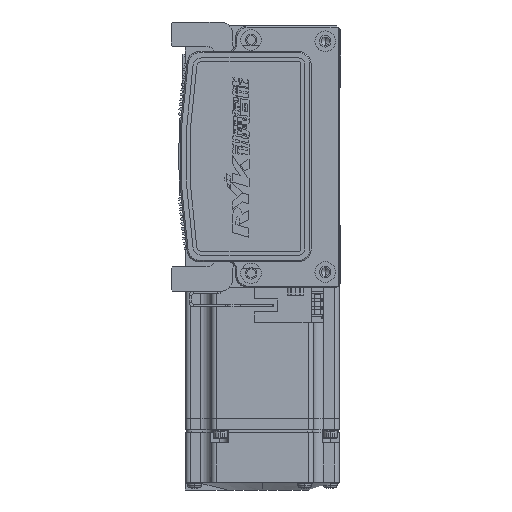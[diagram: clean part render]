
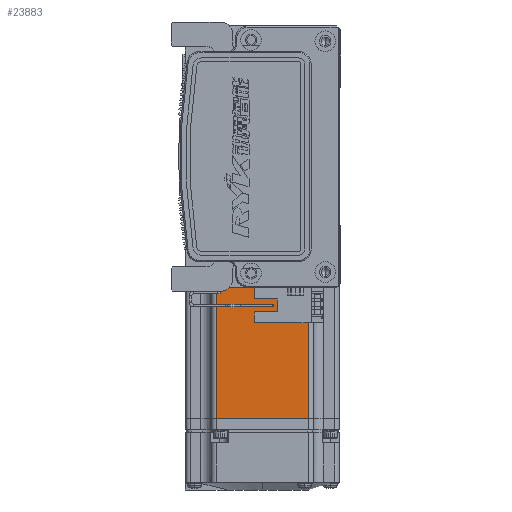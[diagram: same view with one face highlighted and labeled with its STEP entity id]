
A CAD part, left-side view. The second image highlights one B-rep face of the part: STEP entity #23883.
In plain terms, the highlighted planar face has unit normal (-1, 0, 0) as drawn and (0, 0, 1) by its records, which use the part's own axes.
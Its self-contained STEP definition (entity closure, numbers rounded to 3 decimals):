
#3245 = EDGE_LOOP ( 'NONE', ( #45727, #21758, #44999, #18897 ) ) ;
#4271 = VERTEX_POINT ( 'NONE', #37775 ) ;
#5717 = DIRECTION ( 'NONE',  ( 0., 0., 1. ) ) ;
#6672 = DIRECTION ( 'NONE',  ( 1., 0., 0. ) ) ;
#8123 = VERTEX_POINT ( 'NONE', #58498 ) ;
#9846 = VECTOR ( 'NONE', #58855, 1000. ) ;
#14097 = VECTOR ( 'NONE', #57570, 1000. ) ;
#15350 = CARTESIAN_POINT ( 'NONE',  ( -70.95, 0., 30. ) ) ;
#18897 = ORIENTED_EDGE ( 'NONE', *, *, #20925, .F. ) ;
#20925 = EDGE_CURVE ( 'NONE', #68794, #4271, #30994, .T. ) ;
#21758 = ORIENTED_EDGE ( 'NONE', *, *, #32167, .T. ) ;
#23883 = ADVANCED_FACE ( 'NONE', ( #60187 ), #54774, .T. ) ;
#24432 = LINE ( 'NONE', #15350, #9846 ) ;
#27158 = LINE ( 'NONE', #32417, #52102 ) ;
#27927 = LINE ( 'NONE', #68610, #14097 ) ;
#30994 = LINE ( 'NONE', #48200, #64471 ) ;
#31688 = DIRECTION ( 'NONE',  ( -1., 0., 0. ) ) ;
#32167 = EDGE_CURVE ( 'NONE', #36605, #8123, #27927, .T. ) ;
#32417 = CARTESIAN_POINT ( 'NONE',  ( -7.75, 0., 30. ) ) ;
#36605 = VERTEX_POINT ( 'NONE', #68704 ) ;
#37775 = CARTESIAN_POINT ( 'NONE',  ( -70.95, -18., 30. ) ) ;
#38633 = CARTESIAN_POINT ( 'NONE',  ( -6.5, -25., 30. ) ) ;
#40516 = EDGE_CURVE ( 'NONE', #8123, #4271, #24432, .T. ) ;
#40702 = CARTESIAN_POINT ( 'NONE',  ( -7.75, -18., 30. ) ) ;
#44999 = ORIENTED_EDGE ( 'NONE', *, *, #40516, .T. ) ;
#45727 = ORIENTED_EDGE ( 'NONE', *, *, #62561, .F. ) ;
#48200 = CARTESIAN_POINT ( 'NONE',  ( -6.5, -18., 30. ) ) ;
#48686 = DIRECTION ( 'NONE',  ( 0., -1., 0. ) ) ;
#52102 = VECTOR ( 'NONE', #48686, 1000. ) ;
#54774 = PLANE ( 'NONE',  #57003 ) ;
#57003 = AXIS2_PLACEMENT_3D ( 'NONE', #38633, #5717, #6672 ) ;
#57570 = DIRECTION ( 'NONE',  ( -1., 0., 0. ) ) ;
#58498 = CARTESIAN_POINT ( 'NONE',  ( -70.95, 18., 30. ) ) ;
#58855 = DIRECTION ( 'NONE',  ( 0., -1., 0. ) ) ;
#60187 = FACE_OUTER_BOUND ( 'NONE', #3245, .T. ) ;
#62561 = EDGE_CURVE ( 'NONE', #36605, #68794, #27158, .T. ) ;
#64471 = VECTOR ( 'NONE', #31688, 1000. ) ;
#68610 = CARTESIAN_POINT ( 'NONE',  ( -6.5, 18., 30. ) ) ;
#68704 = CARTESIAN_POINT ( 'NONE',  ( -7.75, 18., 30. ) ) ;
#68794 = VERTEX_POINT ( 'NONE', #40702 ) ;
